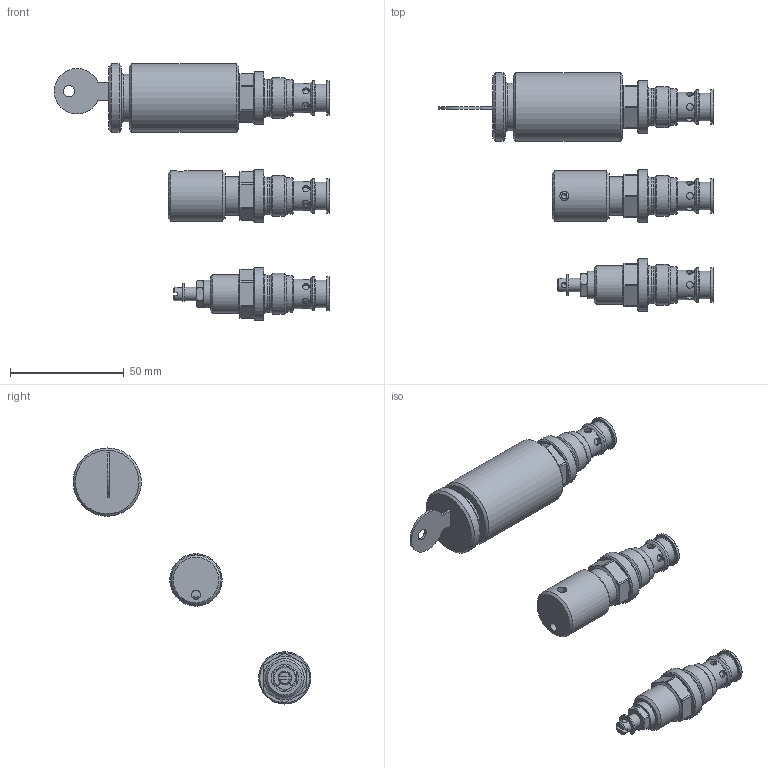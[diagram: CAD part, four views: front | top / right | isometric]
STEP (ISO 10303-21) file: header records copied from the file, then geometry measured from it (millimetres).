
FILE_DESCRIPTION(('Bauteilbeschreibung','HiCAD-Model','HiCAD-STEP-TRANSLATION','Bauteilbeschreibung'),'2;1');
FILE_NAME('C:/_EIGENE_DATEN/DXF_STEP/DN_PM18_3508.STP','2008-08-25T15:58:35+00:00',('Konstrukteur'),('Konstrukteur Firma GmbH'),' HiCAD neXt 2007, Step 3.1.1212.3C ','HiCAD neXt 2007','confidential');
FILE_SCHEMA(('AUTOMOTIVE_DESIGN { 1 2 10303 214 0 1 1 1 }'));
Length unit declared in the file: millimetre
Products named in the file (16): DN_PM18_3508; DNSPM18; A72665EB; D8311F80; A4FCE782; SCHEIBE; SECHSKANTMUTTER; SICHERUNGSSCHEIBE; DNDPM18; A7FA097F; D8311F800; ABA931BA; DNKPM18; D7F25E55; D8311F801; AE089486
Assembly tree (15 placements, depth 5):
  DN_PM18_3508
    DNSPM18
      A72665EB
        D8311F80
        A4FCE782
          SCHEIBE
          SECHSKANTMUTTER
          SICHERUNGSSCHEIBE
    DNDPM18
      A7FA097F
        D8311F800
        ABA931BA
    DNKPM18
      D7F25E55
        D8311F801
        AE089486
Bounding box: 121 x 104.5 x 112.5 mm (x, y, z)
Volume: 78005 mm3; surface area: 25558.4 mm2
Topology: 8 solids, 8 shells, 319 faces, 706 edges, 456 vertices
Faces by surface type: cylinder 119, plane 107, cone 68, torus 25
Full cylindrical faces by diameter (mm): 3 x18, 4 x5, 4.4 x3, 5 x1, 5.9 x6, 6 x5, 6.4 x1, 8 x1, 8.5 x1, 12 x1, 12.1 x3, 13 x3, 15 x6, 16 x3, 16.3 x3, 17 x4, 17.5 x1, 18 x3, 21 x1, 22 x1, 23 x3, 30 x2
Entity records: 21596 total; most frequent: CARTESIAN_POINT 10151, DIRECTION 1340, ORIENTED_EDGE 978, COLOUR_RGB 816, PRESENTATION_STYLE_ASSIGNMENT 816, OVER_RIDING_STYLED_ITEM 808, AXIS2_PLACEMENT_3D 606, EDGE_LOOP 529
